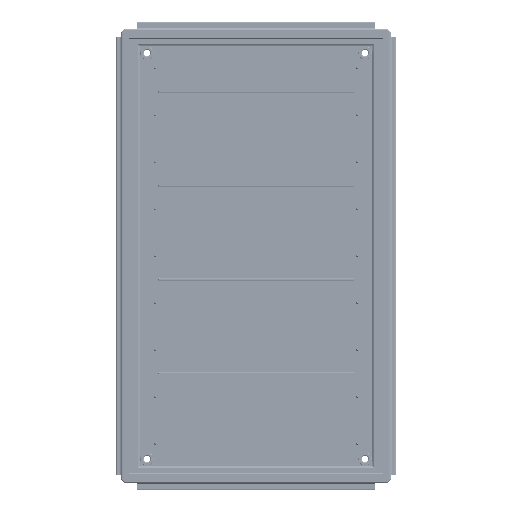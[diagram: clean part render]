
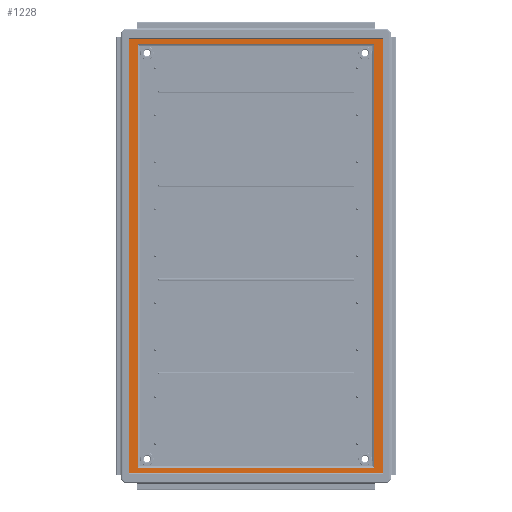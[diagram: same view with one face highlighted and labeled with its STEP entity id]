
A CAD part, front view. The second image highlights one B-rep face of the part: STEP entity #1228.
In plain terms, the highlighted planar face has unit normal (0, -1, 0).
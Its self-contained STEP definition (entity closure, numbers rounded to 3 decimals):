
#1228=ADVANCED_FACE('',(#39573,#39575),#39577,.T.);
#39573=FACE_BOUND('',#39574,.T.);
#39574=EDGE_LOOP('',(#117129,#117130,#117131,#117132));
#39575=FACE_BOUND('',#39576,.T.);
#39576=EDGE_LOOP('',(#117133,#117134,#117135,#117136));
#39577=PLANE('',#39578);
#39578=AXIS2_PLACEMENT_3D('',#39579,#39580,#39581);
#39579=CARTESIAN_POINT('',(-359.9,1.,-20.899));
#39580=DIRECTION('',(0.,-1.,0.));
#39581=DIRECTION('',(0.,0.,-1.));
#117129=ORIENTED_EDGE('',*,*,#162547,.F.);
#117130=ORIENTED_EDGE('',*,*,#162548,.T.);
#117131=ORIENTED_EDGE('',*,*,#162549,.T.);
#117132=ORIENTED_EDGE('',*,*,#162550,.F.);
#117133=ORIENTED_EDGE('',*,*,#162551,.T.);
#117134=ORIENTED_EDGE('',*,*,#162552,.T.);
#117135=ORIENTED_EDGE('',*,*,#162553,.F.);
#117136=ORIENTED_EDGE('',*,*,#162554,.T.);
#162547=EDGE_CURVE('',#186398,#186399,#186400,.T.);
#162548=EDGE_CURVE('',#186398,#186401,#186402,.T.);
#162549=EDGE_CURVE('',#186401,#186403,#186404,.T.);
#162550=EDGE_CURVE('',#186399,#186403,#186405,.T.);
#162551=EDGE_CURVE('',#186406,#186407,#186408,.T.);
#162552=EDGE_CURVE('',#186407,#186409,#186410,.T.);
#162553=EDGE_CURVE('',#186411,#186409,#186412,.T.);
#162554=EDGE_CURVE('',#186411,#186406,#186413,.T.);
#186398=VERTEX_POINT('',#227896);
#186399=VERTEX_POINT('',#227897);
#186400=LINE('',#227898,#227899);
#186401=VERTEX_POINT('',#227901);
#186402=LINE('',#227902,#227903);
#186403=VERTEX_POINT('',#227905);
#186404=LINE('',#227906,#227907);
#186405=LINE('',#227909,#227910);
#186406=VERTEX_POINT('',#227912);
#186407=VERTEX_POINT('',#227913);
#186408=LINE('',#227914,#227915);
#186409=VERTEX_POINT('',#227917);
#186410=LINE('',#227918,#227919);
#186411=VERTEX_POINT('',#227921);
#186412=LINE('',#227922,#227923);
#186413=LINE('',#227925,#227926);
#227896=CARTESIAN_POINT('',(-382.591,1.,-20.899));
#227897=CARTESIAN_POINT('',(157.591,1.,-20.899));
#227898=CARTESIAN_POINT('',(-382.591,1.,-20.899));
#227899=VECTOR('',#227900,1.);
#227900=DIRECTION('',(1.,0.,0.));
#227901=CARTESIAN_POINT('',(-382.591,1.,-947.101));
#227902=CARTESIAN_POINT('',(-382.591,1.,-20.899));
#227903=VECTOR('',#227904,1.);
#227904=DIRECTION('',(0.,0.,-1.));
#227905=CARTESIAN_POINT('',(157.591,1.,-947.101));
#227906=CARTESIAN_POINT('',(-382.591,1.,-947.101));
#227907=VECTOR('',#227908,1.);
#227908=DIRECTION('',(1.,0.,0.));
#227909=CARTESIAN_POINT('',(157.591,1.,-20.899));
#227910=VECTOR('',#227911,1.);
#227911=DIRECTION('',(0.,0.,-1.));
#227912=CARTESIAN_POINT('',(-364.6,1.,-31.9));
#227913=CARTESIAN_POINT('',(139.6,1.,-31.9));
#227914=CARTESIAN_POINT('',(-364.6,1.,-31.9));
#227915=VECTOR('',#227916,1.);
#227916=DIRECTION('',(1.,0.,0.));
#227917=CARTESIAN_POINT('',(139.6,1.,-936.1));
#227918=CARTESIAN_POINT('',(139.6,1.,-31.9));
#227919=VECTOR('',#227920,1.);
#227920=DIRECTION('',(0.,0.,-1.));
#227921=CARTESIAN_POINT('',(-364.6,1.,-936.1));
#227922=CARTESIAN_POINT('',(-364.6,1.,-936.1));
#227923=VECTOR('',#227924,1.);
#227924=DIRECTION('',(1.,0.,0.));
#227925=CARTESIAN_POINT('',(-364.6,1.,-936.1));
#227926=VECTOR('',#227927,1.);
#227927=DIRECTION('',(0.,0.,1.));
